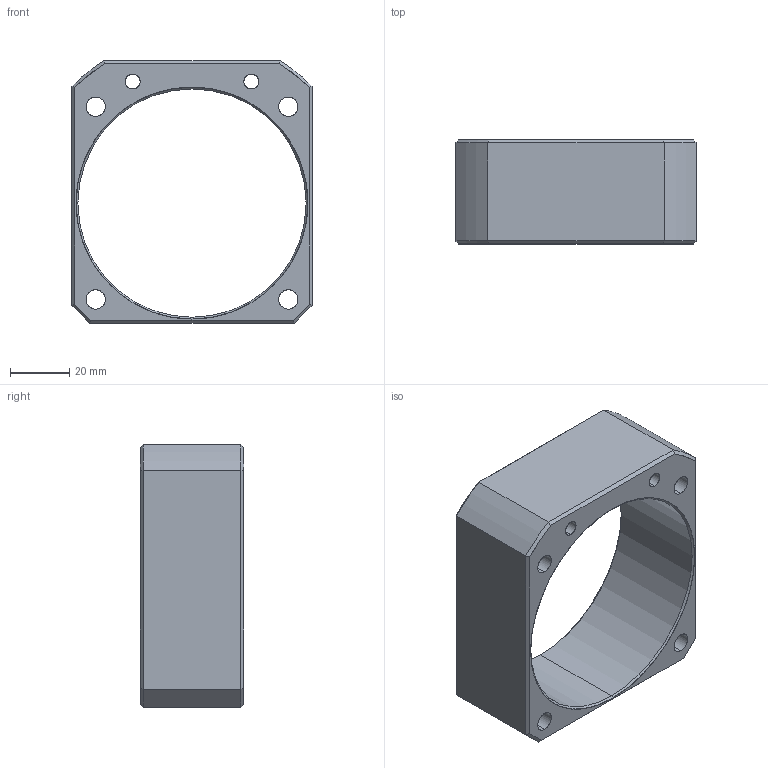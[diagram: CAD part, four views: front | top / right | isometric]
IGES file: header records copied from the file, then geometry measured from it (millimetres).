
Start section: SolidWorks IGES file using analytic representation for surfaces
Global section: file name: L:\電子カタログ-3D_STEP\WHZ0630-MD.igs; native system: SolidWorks 2009; preprocessor: SolidWorks 2009; author: D211; date: 100422.003505; units: millimetre
Bounding box: 81 x 35 x 88.5 mm (x, y, z)
Surface area: 27580.6 mm2 (no closed solid volume)
Topology: 0 solids, 0 shells, 58 faces, 876 edges, 876 vertices
Faces by surface type: revolution 36, bspline 22
